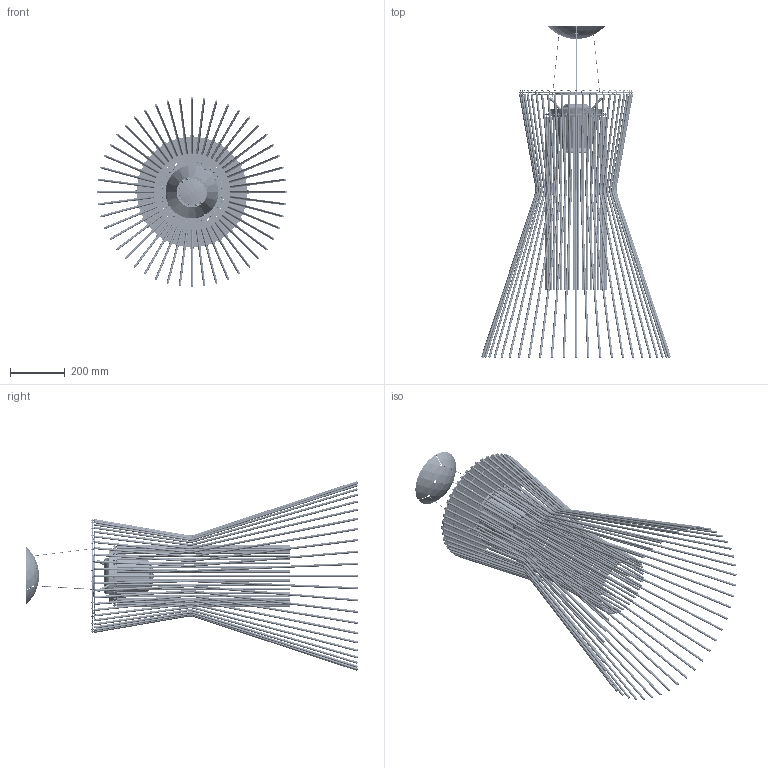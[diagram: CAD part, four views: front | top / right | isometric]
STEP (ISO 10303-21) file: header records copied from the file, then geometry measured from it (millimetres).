
FILE_DESCRIPTION (( 'STEP AP214' ), '1' );
FILE_NAME ('169_VIVACE_S_PL_3D.STEP', '2021-05-07T15:12:47', ( '' ), ( '' ), 'SwSTEP 2.0', 'SolidWorks 2021', '' );
FILE_SCHEMA (( 'AUTOMOTIVE_DESIGN' ));
Length unit declared in the file: millimetre
Products named in the file (1): 169_VIVACE_S_PL_3D
Bounding box: 696.65 x 1216.62 x 696.65 mm (x, y, z)
Volume: 4345343.9 mm3; surface area: 2551612.8 mm2
Topology: 204 solids, 205 shells, 8888 faces, 23383 edges, 14828 vertices
Faces by surface type: cylinder 3484, torus 2438, plane 2135, cone 819, sphere 12
Entity records: 389587 total; most frequent: CARTESIAN_POINT 59158, DIRECTION 54568, ORIENTED_EDGE 46766, AXIS2_PLACEMENT_3D 23528, EDGE_CURVE 23383, VERTEX_POINT 14828, CIRCLE 14639, EDGE_LOOP 9119
